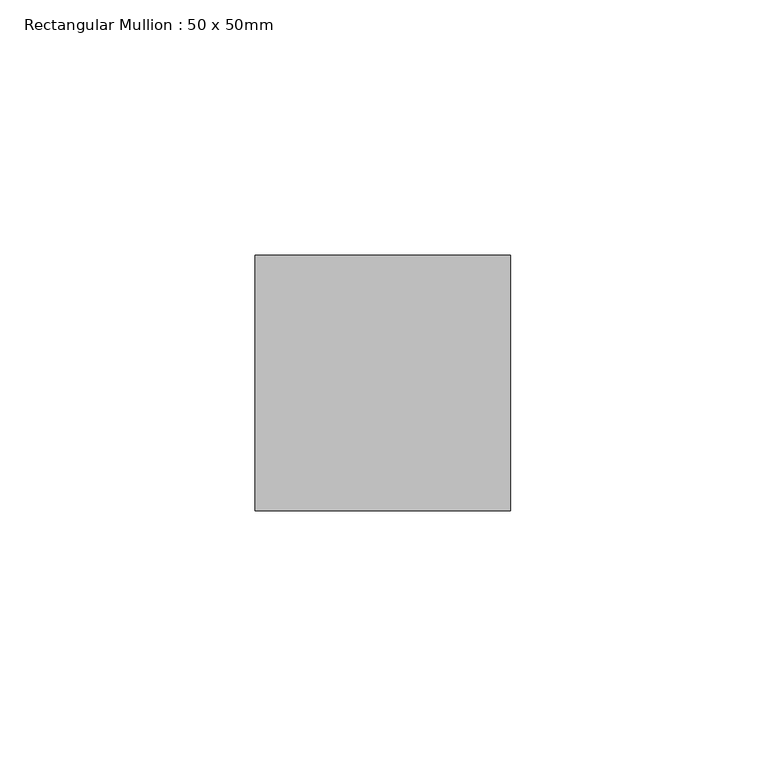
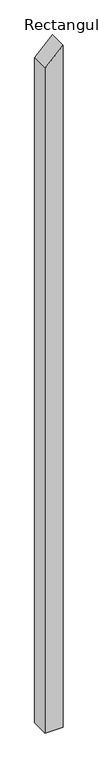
"""IFC4 building model written with IfcOpenShell, lengths in millimetres: member geometry, Rectangular Mullion : 50 x 50mm."""

from ifc_helpers import new_model, si_unit, frame, origin, place, context, project, spatial, polyline, outline, extrude, source, transform, mapped, element, save


def rectangular_mullion_50_x_50mm_b55e1ea5(model_context):
    return source(origin(), model_context, "Body", "SweptSolid", [
        extrude(outline(polyline([(0.0, 0.0), (-50.0, -50.0), (-2000.0, -50.0), (-2000.0, 0.0), (0.0, 0.0)])), frame((0.0, 0.0, 0.0), z_axis=(0.0, 1.0, 0.0), x_axis=(0.0, 0.0, 1.0)), (0.0, 0.0, 1.0), 50.0),
    ])


if __name__ == "__main__":
    model = new_model("IFC4")
    model_context = context("Model", 3, world=origin())
    ifc_project = project(units=[si_unit("LENGTHUNIT", "METRE", prefix="MILLI")], contexts=[model_context])
    site = spatial("IfcSite", under=ifc_project)
    building = spatial("IfcBuilding", under=site)
    placement = place(None, origin())
    rectangular_mullion_50_x_50mm_shape = rectangular_mullion_50_x_50mm_b55e1ea5(model_context)
    element("IfcMember", 1, ObjectType="Rectangular Mullion : 50 x 50mm", at=placement, inside=building, context=model_context, shape_type="MappedRepresentation", body=[
        mapped(rectangular_mullion_50_x_50mm_shape, transform((0.0, 0.0, 0.0), x_axis=(1.0, 0.0, 0.0), y_axis=(0.0, 1.0, 0.0), z_axis=(0.0, 0.0, 1.0))),
    ])
    save(model, "model.ifc")
